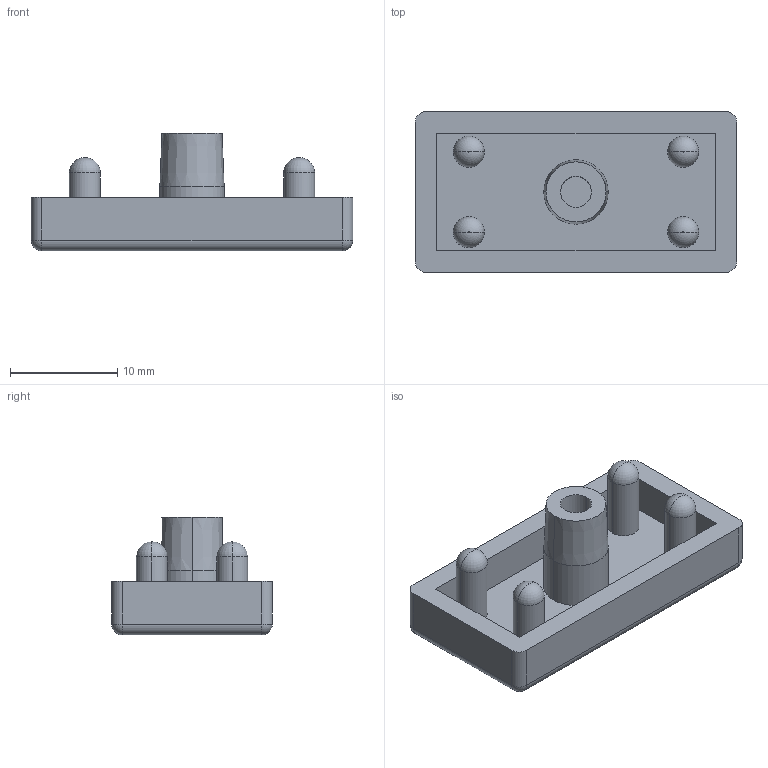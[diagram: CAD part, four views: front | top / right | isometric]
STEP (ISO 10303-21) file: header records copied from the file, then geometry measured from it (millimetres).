
FILE_DESCRIPTION (( 'STEP AP203' ), '1' );
FILE_NAME ('DEC1530.STEP', '2022-06-23T05:26:28', ( '' ), ( '' ), 'SwSTEP 2.0', 'SolidWorks 2017', '' );
FILE_SCHEMA (( 'CONFIG_CONTROL_DESIGN' ));
Length unit declared in the file: millimetre
Products named in the file (1): DEC1530
Bounding box: 30 x 15 x 11 mm (x, y, z)
Volume: 1600.6 mm3; surface area: 2055.9 mm2
Topology: 1 solids, 1 shells, 51 faces, 108 edges, 62 vertices
Faces by surface type: cylinder 20, plane 17, torus 8, sphere 4, cone 2
Entity records: 1417 total; most frequent: DIRECTION 266, CARTESIAN_POINT 218, ORIENTED_EDGE 208, AXIS2_PLACEMENT_3D 110, EDGE_CURVE 104, VERTEX_POINT 62, EDGE_LOOP 58, CIRCLE 58
